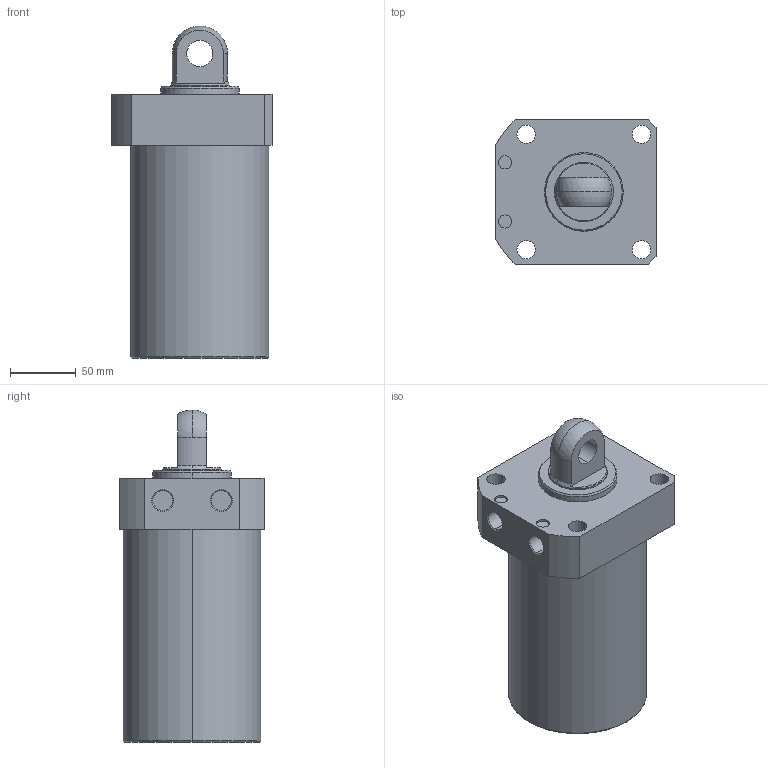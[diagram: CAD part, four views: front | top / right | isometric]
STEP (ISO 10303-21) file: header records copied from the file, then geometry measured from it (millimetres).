
FILE_DESCRIPTION (( 'STEP AP203' ), '1' );
FILE_NAME ('CLLR-105CP-115.STEP', '2019-12-18T08:07:48', ( '' ), ( '' ), 'SwSTEP 2.0', 'SolidWorks 2015', '' );
FILE_SCHEMA (( 'CONFIG_CONTROL_DESIGN' ));
Length unit declared in the file: millimetre
Products named in the file (1): CLLR-105CP-115
Bounding box: 122 x 110 x 253 mm (x, y, z)
Volume: 1928863.6 mm3; surface area: 110965.3 mm2
Topology: 1 solids, 1 shells, 59 faces, 139 edges, 89 vertices
Faces by surface type: cylinder 29, plane 18, cone 8, torus 2, sphere 2
Entity records: 1822 total; most frequent: DIRECTION 331, CARTESIAN_POINT 300, ORIENTED_EDGE 278, EDGE_CURVE 139, AXIS2_PLACEMENT_3D 136, VERTEX_POINT 89, EDGE_LOOP 76, CIRCLE 76
